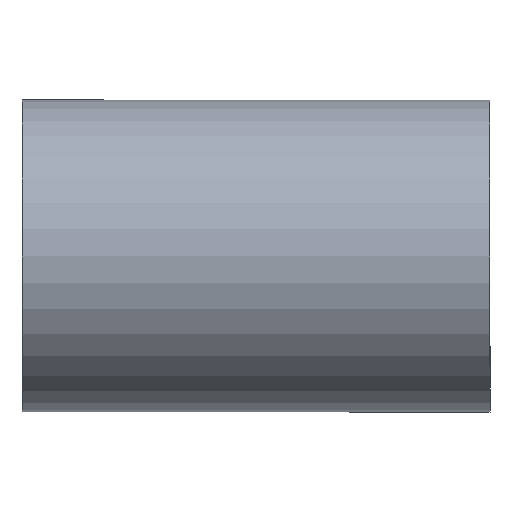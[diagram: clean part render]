
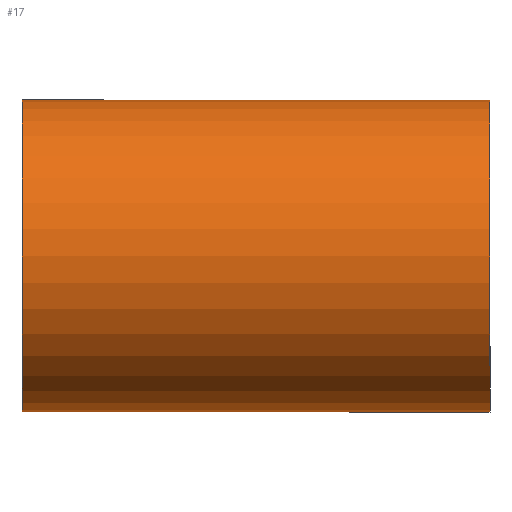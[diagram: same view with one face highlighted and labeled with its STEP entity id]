
A CAD part, front view. The second image highlights one B-rep face of the part: STEP entity #17.
In plain terms, the highlighted cylindrical face has radius 10 mm (diameter 20 mm), a full revolution.
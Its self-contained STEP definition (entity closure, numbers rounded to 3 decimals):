
#17 = ADVANCED_FACE('',(#18),#32,.T.);
#18 = FACE_BOUND('',#19,.F.);
#19 = EDGE_LOOP('',(#20,#50,#77,#78));
#20 = ORIENTED_EDGE('',*,*,#21,.T.);
#21 = EDGE_CURVE('',#22,#24,#26,.T.);
#22 = VERTEX_POINT('',#23);
#23 = CARTESIAN_POINT('',(0.,10.,0.));
#24 = VERTEX_POINT('',#25);
#25 = CARTESIAN_POINT('',(30.,10.,0.));
#26 = SEAM_CURVE('',#27,(#31,#43),.PCURVE_S1.);
#27 = LINE('',#28,#29);
#28 = CARTESIAN_POINT('',(0.,10.,0.));
#29 = VECTOR('',#30,1.);
#30 = DIRECTION('',(1.,0.,0.));
#31 = PCURVE('',#32,#37);
#32 = CYLINDRICAL_SURFACE('',#33,10.);
#33 = AXIS2_PLACEMENT_3D('',#34,#35,#36);
#34 = CARTESIAN_POINT('',(0.,0.,0.));
#35 = DIRECTION('',(-1.,0.,0.));
#36 = DIRECTION('',(0.,1.,0.));
#37 = DEFINITIONAL_REPRESENTATION('',(#38),#42);
#38 = LINE('',#39,#40);
#39 = CARTESIAN_POINT('',(-0.,0.));
#40 = VECTOR('',#41,1.);
#41 = DIRECTION('',(-0.,-1.));
#42 = ( GEOMETRIC_REPRESENTATION_CONTEXT(2) 
PARAMETRIC_REPRESENTATION_CONTEXT() REPRESENTATION_CONTEXT('2D SPACE',''
  ) );
#43 = PCURVE('',#32,#44);
#44 = DEFINITIONAL_REPRESENTATION('',(#45),#49);
#45 = LINE('',#46,#47);
#46 = CARTESIAN_POINT('',(-6.283,0.));
#47 = VECTOR('',#48,1.);
#48 = DIRECTION('',(-0.,-1.));
#49 = ( GEOMETRIC_REPRESENTATION_CONTEXT(2) 
PARAMETRIC_REPRESENTATION_CONTEXT() REPRESENTATION_CONTEXT('2D SPACE',''
  ) );
#50 = ORIENTED_EDGE('',*,*,#51,.T.);
#51 = EDGE_CURVE('',#24,#24,#52,.T.);
#52 = SURFACE_CURVE('',#53,(#58,#65),.PCURVE_S1.);
#53 = CIRCLE('',#54,10.);
#54 = AXIS2_PLACEMENT_3D('',#55,#56,#57);
#55 = CARTESIAN_POINT('',(30.,0.,0.));
#56 = DIRECTION('',(1.,0.,0.));
#57 = DIRECTION('',(0.,1.,0.));
#58 = PCURVE('',#32,#59);
#59 = DEFINITIONAL_REPRESENTATION('',(#60),#64);
#60 = LINE('',#61,#62);
#61 = CARTESIAN_POINT('',(-0.,-30.));
#62 = VECTOR('',#63,1.);
#63 = DIRECTION('',(-1.,0.));
#64 = ( GEOMETRIC_REPRESENTATION_CONTEXT(2) 
PARAMETRIC_REPRESENTATION_CONTEXT() REPRESENTATION_CONTEXT('2D SPACE',''
  ) );
#65 = PCURVE('',#66,#71);
#66 = PLANE('',#67);
#67 = AXIS2_PLACEMENT_3D('',#68,#69,#70);
#68 = CARTESIAN_POINT('',(30.,0.,0.));
#69 = DIRECTION('',(1.,0.,0.));
#70 = DIRECTION('',(0.,0.,1.));
#71 = DEFINITIONAL_REPRESENTATION('',(#72),#76);
#72 = CIRCLE('',#73,10.);
#73 = AXIS2_PLACEMENT_2D('',#74,#75);
#74 = CARTESIAN_POINT('',(0.,0.));
#75 = DIRECTION('',(0.,-1.));
#76 = ( GEOMETRIC_REPRESENTATION_CONTEXT(2) 
PARAMETRIC_REPRESENTATION_CONTEXT() REPRESENTATION_CONTEXT('2D SPACE',''
  ) );
#77 = ORIENTED_EDGE('',*,*,#21,.F.);
#78 = ORIENTED_EDGE('',*,*,#79,.F.);
#79 = EDGE_CURVE('',#22,#22,#80,.T.);
#80 = SURFACE_CURVE('',#81,(#86,#93),.PCURVE_S1.);
#81 = CIRCLE('',#82,10.);
#82 = AXIS2_PLACEMENT_3D('',#83,#84,#85);
#83 = CARTESIAN_POINT('',(0.,0.,0.));
#84 = DIRECTION('',(1.,0.,0.));
#85 = DIRECTION('',(0.,1.,0.));
#86 = PCURVE('',#32,#87);
#87 = DEFINITIONAL_REPRESENTATION('',(#88),#92);
#88 = LINE('',#89,#90);
#89 = CARTESIAN_POINT('',(-0.,0.));
#90 = VECTOR('',#91,1.);
#91 = DIRECTION('',(-1.,0.));
#92 = ( GEOMETRIC_REPRESENTATION_CONTEXT(2) 
PARAMETRIC_REPRESENTATION_CONTEXT() REPRESENTATION_CONTEXT('2D SPACE',''
  ) );
#93 = PCURVE('',#94,#99);
#94 = PLANE('',#95);
#95 = AXIS2_PLACEMENT_3D('',#96,#97,#98);
#96 = CARTESIAN_POINT('',(0.,0.,
    0.));
#97 = DIRECTION('',(1.,0.,0.));
#98 = DIRECTION('',(0.,0.,1.));
#99 = DEFINITIONAL_REPRESENTATION('',(#100),#104);
#100 = CIRCLE('',#101,10.);
#101 = AXIS2_PLACEMENT_2D('',#102,#103);
#102 = CARTESIAN_POINT('',(0.,0.));
#103 = DIRECTION('',(0.,-1.));
#104 = ( GEOMETRIC_REPRESENTATION_CONTEXT(2) 
PARAMETRIC_REPRESENTATION_CONTEXT() REPRESENTATION_CONTEXT('2D SPACE',''
  ) );
